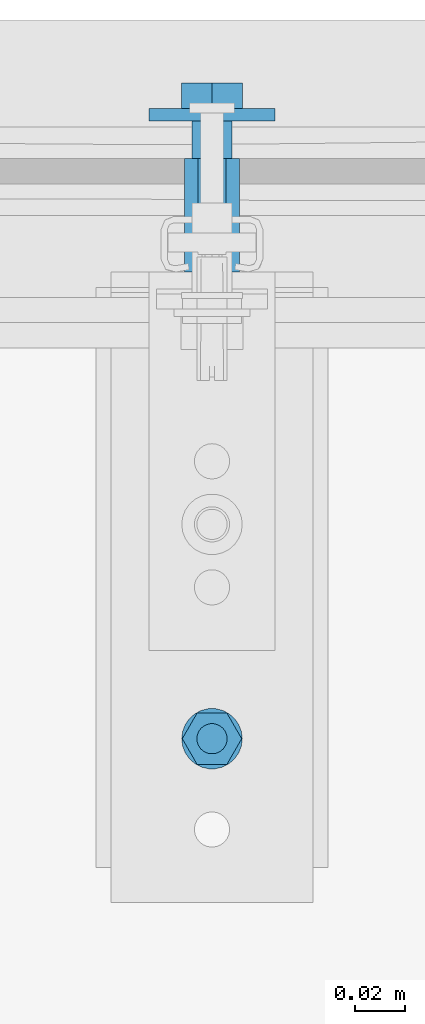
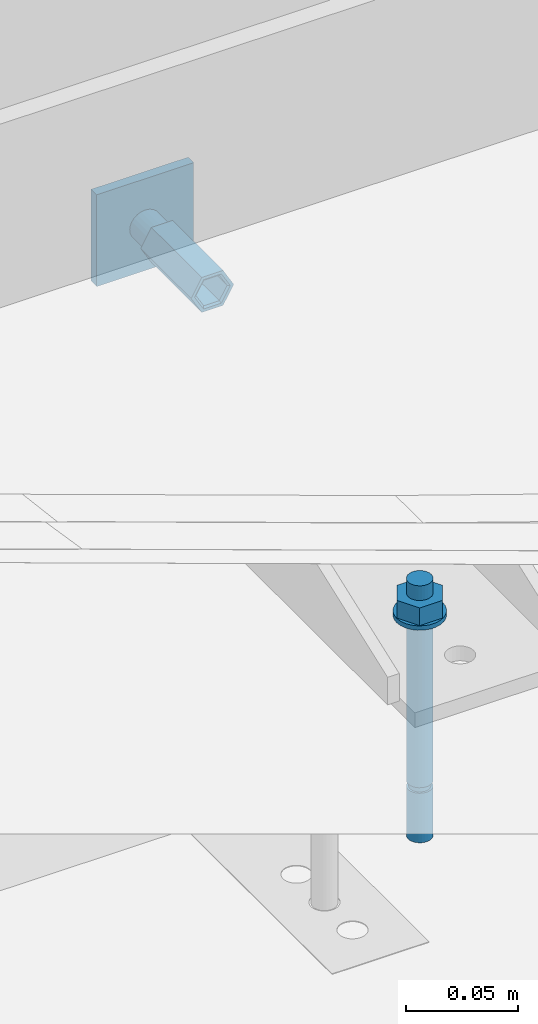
# One storey, part 4 of 17: 2 assemblies.
"""IFC2X3 building model written with IfcOpenShell, lengths in metres."""

import ifcopenshell
import ifcopenshell.guid

model = None  # the IFC model being written
_history = None  # IfcOwnerHistory: only IFC2X3 demands one
_inside = {}  # id of a spatial element -> (the spatial element, [elements in it])
_under = {}  # id of a project, library or spatial element -> (it, [spatial elements below it])
_declared = {}  # id of a project -> (the project, [libraries it declares])
_typed = {}  # id of a type object -> (the type object, [elements of that type])
_made_of = {}  # id of a material, layer set ... -> (it, [elements and type objects made of it])


def new_model(schema):
    """Start an empty IFC model of exactly this schema.

    Asked for "IFC4X3", IfcOpenShell would pick the latest addendum, in which some entities
    have other attributes; the version numbers below select the first issue.
    IFC2X3 requires an IfcOwnerHistory on every rooted entity: one is made here for all.
    """
    global model, _history
    if schema == "IFC4X3":
        model = ifcopenshell.file(schema_version=(4, 3, 0, 0))
    else:
        model = ifcopenshell.file(schema=schema)
    _inside.clear()
    _under.clear()
    _declared.clear()
    _typed.clear()
    _made_of.clear()
    _history = None
    if model.schema == "IFC2X3":
        org = make("IfcOrganization", Name="unknown")
        user = make(
            "IfcPersonAndOrganization",
            ThePerson=make("IfcPerson", FamilyName="unknown"),
            TheOrganization=org,
        )
        app = make(
            "IfcApplication",
            ApplicationDeveloper=org,
            Version="unknown",
            ApplicationFullName="unknown",
            ApplicationIdentifier="unknown",
        )
        _history = make(
            "IfcOwnerHistory",
            OwningUser=user,
            OwningApplication=app,
            ChangeAction="ADDED",
            CreationDate=0,
        )
    return model


def make(cls, **values):
    """One entity of the class cls with the attributes given. An attribute that is None is left unset."""
    return model.create_entity(
        cls, **{name: value for name, value in values.items() if value is not None}
    )


def entity(cls, *values):
    """Any entity or typed value of the class cls, its attributes in the order of the schema. None: left unset."""
    e = model.create_entity(cls)
    for i, value in enumerate(values):
        if value is not None:
            e[i] = value
    return e


def rooted(cls, **values):
    """An entity with a GlobalId (a new one), such as an element, a storey or a relation."""
    return make(cls, GlobalId=ifcopenshell.guid.new(), OwnerHistory=_history, **values)


def si_unit(unit_type, name, prefix=None):
    """IfcSIUnit, for example si_unit("LENGTHUNIT", "METRE", prefix="MILLI")."""
    return make("IfcSIUnit", UnitType=unit_type, Prefix=prefix, Name=name)


def converted_unit(unit_type, name, factor, base, dimensions=None, offset=None):
    """IfcConversionBasedUnit, such as the inch: factor (a typed value) times the base unit."""
    return make(
        "IfcConversionBasedUnit"
        if offset is None
        else "IfcConversionBasedUnitWithOffset",
        ConversionOffset=offset,
        Dimensions=None
        if dimensions is None
        else entity("IfcDimensionalExponents", *dimensions),
        UnitType=unit_type,
        Name=name,
        ConversionFactor=make(
            "IfcMeasureWithUnit", ValueComponent=factor, UnitComponent=base
        ),
    )


def derived_unit(unit_type, elements):
    """IfcDerivedUnit: a product of units, each with its exponent."""
    return make(
        "IfcDerivedUnit",
        Elements=[
            make("IfcDerivedUnitElement", Unit=unit, Exponent=power)
            for unit, power in elements
        ],
        UnitType=unit_type,
    )


def assignment(units):
    """IfcUnitAssignment: the units of a project."""
    return None if units is None else make("IfcUnitAssignment", Units=units)


def point(xyz):
    """IfcCartesianPoint."""
    return None if xyz is None else make("IfcCartesianPoint", Coordinates=xyz)


def direction(xyz):
    """IfcDirection."""
    return None if xyz is None else make("IfcDirection", DirectionRatios=xyz)


def frame(location, z_axis=None, x_axis=None):
    """IfcAxis2Placement3D, a coordinate frame: its origin and axes. An axis left out is left unset."""
    return make(
        "IfcAxis2Placement3D",
        Location=point(location),
        Axis=direction(z_axis),
        RefDirection=direction(x_axis),
    )


def frame_2d(location, x_axis=None):
    """IfcAxis2Placement2D, a coordinate frame in the plane: its origin and x axis."""
    return make(
        "IfcAxis2Placement2D", Location=point(location), RefDirection=direction(x_axis)
    )


def origin():
    """The frame at (0, 0, 0) with its axes left unset."""
    return frame((0.0, 0.0, 0.0))


def place(relative_to, where):
    """IfcLocalPlacement: puts the frame where relative to a parent placement (None: the world)."""
    return make(
        "IfcLocalPlacement", PlacementRelTo=relative_to, RelativePlacement=where
    )


def context(
    kind, dimensions, precision=None, world=None, true_north=None, identifier=None
):
    """IfcGeometricRepresentationContext, for example the 3D "Model" context."""
    return make(
        "IfcGeometricRepresentationContext",
        ContextIdentifier=identifier,
        ContextType=kind,
        CoordinateSpaceDimension=dimensions,
        Precision=precision,
        WorldCoordinateSystem=world,
        TrueNorth=true_north,
    )


def subcontext(parent, identifier, kind, view, scale=None):
    """IfcGeometricRepresentationSubContext, for example "Body" below "Model"."""
    return make(
        "IfcGeometricRepresentationSubContext",
        ContextIdentifier=identifier,
        ContextType=kind,
        ParentContext=parent,
        TargetScale=scale,
        TargetView=view,
    )


def project(units=None, contexts=None):
    """IfcProject with its units and contexts."""
    return rooted(
        "IfcProject",
        Name="project",
        RepresentationContexts=contexts,
        UnitsInContext=assignment(units),
    )


def spatial(cls, under=None, at=None, **own):
    """A site, building, storey or space (cls), placed at a placement, below another one or the project."""
    s = rooted(cls, ObjectPlacement=at, **own)
    if under is not None:
        _under.setdefault(under.id(), (under, []))[1].append(s)
    return s


def polyline(points):
    """IfcPolyline through the points."""
    return make("IfcPolyline", Points=[point(p) for p in points])


def circle_curve(where, radius):
    """IfcCircle in the frame where."""
    return make("IfcCircle", Position=where, Radius=radius)


def parameter(value):
    """IfcParameterValue: where a trimmed curve begins or ends, as a parameter of its basis curve."""
    return model.create_entity("IfcParameterValue", value)


def trimmed(basis, trim1, trim2, sense, master):
    """IfcTrimmedCurve: the piece of a basis curve between two trims."""
    return make(
        "IfcTrimmedCurve",
        BasisCurve=basis,
        Trim1=trim1,
        Trim2=trim2,
        SenseAgreement=sense,
        MasterRepresentation=master,
    )


def segment(curve, same_sense, transition):
    """IfcCompositeCurveSegment."""
    return make(
        "IfcCompositeCurveSegment",
        Transition=transition,
        SameSense=same_sense,
        ParentCurve=curve,
    )


def composite_curve(segments, self_intersect=None):
    """IfcCompositeCurve: segments joined end to end."""
    return make("IfcCompositeCurve", Segments=segments, SelfIntersect=self_intersect)


def profile(cls, at=None, kind="AREA", **sizes):
    """A parametric profile (cls). Its sizes go by their IFC names, for example OverallWidth=200.0."""
    return make(cls, ProfileType=kind, Position=at, **sizes)


def circle(**sizes):
    """IfcCircleProfileDef."""
    return profile("IfcCircleProfileDef", **sizes)


def hollow_circle(**sizes):
    """IfcCircleHollowProfileDef."""
    return profile("IfcCircleHollowProfileDef", **sizes)


def outline(outer, holes=None, kind="AREA"):
    """IfcArbitraryClosedProfileDef: a profile drawn as a closed curve; with holes, ...WithVoids."""
    if holes is None:
        return make("IfcArbitraryClosedProfileDef", ProfileType=kind, OuterCurve=outer)
    return make(
        "IfcArbitraryProfileDefWithVoids",
        ProfileType=kind,
        OuterCurve=outer,
        InnerCurves=holes,
    )


def extrude(swept, where, along, depth):
    """IfcExtrudedAreaSolid: the profile swept, set in the frame where, extruded along a direction by depth."""
    return make(
        "IfcExtrudedAreaSolid",
        SweptArea=swept,
        Position=where,
        ExtrudedDirection=direction(along),
        Depth=depth,
    )


def faces_of(points, faces, orient=None, outer=None):
    """IfcFace entities. A face is a list of loops; a loop is a list of indices into points, from 0.

    orient and outer hold one flag for each loop. By default every Orientation is true, the
    first loop of a face is its IfcFaceOuterBound and the others are IfcFaceBound.
    """
    made = []
    for i, loops in enumerate(faces):
        bounds = []
        for j, loop in enumerate(loops):
            is_outer = j == 0 if outer is None else outer[i][j]
            bounds.append(
                make(
                    "IfcFaceOuterBound" if is_outer else "IfcFaceBound",
                    Bound=make("IfcPolyLoop", Polygon=[points[k] for k in loop]),
                    Orientation=True if orient is None else orient[i][j],
                )
            )
        made.append(make("IfcFace", Bounds=bounds))
    return made


def faceted_brep(points, faces, orient=None, outer=None, voids=None):
    """IfcFacetedBrep: a solid bounded by flat faces; with voids (closed shells), ...WithVoids."""
    shared = [point(p) for p in points]
    hull = make("IfcClosedShell", CfsFaces=faces_of(shared, faces, orient, outer))
    if voids is None:
        return make("IfcFacetedBrep", Outer=hull)
    return make(
        "IfcFacetedBrepWithVoids",
        Outer=hull,
        Voids=[
            make(cls, CfsFaces=faces_of(shared, fs, o, b)) for cls, fs, o, b in voids
        ],
    )


def shape(context_of_items, identifier, shape_type, items):
    """IfcShapeRepresentation: the items that make up one representation, for example the "Body"."""
    return make(
        "IfcShapeRepresentation",
        ContextOfItems=context_of_items,
        RepresentationIdentifier=identifier,
        RepresentationType=shape_type,
        Items=items,
    )


def source(mapping_origin, context_of_items, identifier, shape_type, items):
    """IfcRepresentationMap: a shape defined once, which mapped items show again and again."""
    return make(
        "IfcRepresentationMap",
        MappingOrigin=mapping_origin,
        MappedRepresentation=shape(context_of_items, identifier, shape_type, items),
    )


def transform(
    local_origin,
    x_axis=None,
    y_axis=None,
    z_axis=None,
    scale=None,
    scale2=None,
    scale3=None,
    uniform=True,
):
    """IfcCartesianTransformationOperator3D, or its non-uniform kind. x_axis, y_axis, z_axis: its Axis1, 2, 3."""
    if uniform:
        return make(
            "IfcCartesianTransformationOperator3D",
            Axis1=direction(x_axis),
            Axis2=direction(y_axis),
            LocalOrigin=point(local_origin),
            Scale=scale,
            Axis3=direction(z_axis),
        )
    return make(
        "IfcCartesianTransformationOperator3DnonUniform",
        Axis1=direction(x_axis),
        Axis2=direction(y_axis),
        LocalOrigin=point(local_origin),
        Scale=scale,
        Axis3=direction(z_axis),
        Scale2=scale2,
        Scale3=scale3,
    )


def mapped(mapping_source, mapping_target):
    """IfcMappedItem: shows the shape of a source again, moved by a transform."""
    return make(
        "IfcMappedItem", MappingSource=mapping_source, MappingTarget=mapping_target
    )


def material(Name=None, Category=None):
    """IfcMaterial."""
    return make("IfcMaterial", Name=Name, Category=Category)


def made_of(thing, what):
    """Note that an element or type object is made of a material, layer set ...; save() writes the relation."""
    if what is not None:
        _made_of.setdefault(what.id(), (what, []))[1].append(thing)
    return thing


def type_object(cls, material=None, **own):
    """A type object (cls), such as IfcWallType, which elements share."""
    return made_of(rooted(cls, **own), material)


def type_shapes(of_type, sources):
    """Give a type object the sources (RepresentationMaps) that its elements show as mapped items."""
    of_type.RepresentationMaps = sources


def element(
    cls,
    number,
    at=None,
    inside=None,
    cuts=None,
    type_object=None,
    material=None,
    context=None,
    identifier="Body",
    shape_type=None,
    held_by="IfcProductDefinitionShape",
    body=None,
    shapes=None,
    **own,
):
    """One element of the class cls, such as IfcWall. Its Tag is "e" and its number.

    at: its placement. inside: the storey or other place that contains it. cuts: it is an
    opening in that element (IfcRelVoidsElement). A single representation is given by context,
    identifier, shape_type and body (its items); several are given by shapes. held_by: the class
    of the entity that holds the representations. save() writes the other relations.
    """
    e = rooted(cls, Tag="e%d" % number, ObjectPlacement=at, **own)
    if body is not None:
        shapes = [shape(context, identifier, shape_type, body)]
    if shapes is not None:
        e.Representation = make(held_by, Representations=shapes)
    if inside is not None:
        _inside.setdefault(inside.id(), (inside, []))[1].append(e)
    if cuts is not None:
        rooted(
            "IfcRelVoidsElement", RelatingBuildingElement=cuts, RelatedOpeningElement=e
        )
    if type_object is not None:
        _typed.setdefault(type_object.id(), (type_object, []))[1].append(e)
    return made_of(e, material)


def aggregate(whole, parts):
    """IfcRelAggregates: a whole, such as a stair, and the parts it consists of."""
    return rooted("IfcRelAggregates", RelatingObject=whole, RelatedObjects=parts)


def save(model, path):
    """Write the relations noted so far, then the file.

    IfcRelAggregates (storeys below a building ...), IfcRelContainedInSpatialStructure (elements
    in a storey), IfcRelDefinesByType, IfcRelAssociatesMaterial and IfcRelDeclares: one each for
    every whole, place, type object, material and project.
    """
    for whole, parts in _under.values():
        aggregate(whole, parts)
    for where, things in _inside.values():
        rooted(
            "IfcRelContainedInSpatialStructure",
            RelatedElements=things,
            RelatingStructure=where,
        )
    for kind, things in _typed.values():
        rooted("IfcRelDefinesByType", RelatedObjects=things, RelatingType=kind)
    for what, things in _made_of.values():
        rooted("IfcRelAssociatesMaterial", RelatedObjects=things, RelatingMaterial=what)
    for by, libraries in _declared.values():
        rooted("IfcRelDeclares", RelatingContext=by, RelatedDefinitions=libraries)
    model.write(path)


model = new_model("IFC2X3")

# Units and contexts
model_context = context("Model", 3, precision=1e-05, world=origin(), true_north=direction((6.123031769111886e-17, 1.0)))
plan_context = context("Plan", 3, precision=1e-05, world=origin(), true_north=direction((6.123031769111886e-17, 1.0)))
body_context = subcontext(model_context, "Body", "Model", "MODEL_VIEW")
ifc_project = project(units=[si_unit("LENGTHUNIT", "METRE"), si_unit("AREAUNIT", "SQUARE_METRE"), converted_unit("PLANEANGLEUNIT", "DEGREE", entity("IfcPlaneAngleMeasure", 0.017453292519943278), si_unit("PLANEANGLEUNIT", "RADIAN"), dimensions=[0, 0, 0, 0, 0, 0, 0]), si_unit("VOLUMEUNIT", "CUBIC_METRE"), derived_unit("THERMALTRANSMITTANCEUNIT", [(si_unit("MASSUNIT", "GRAM", prefix="KILO"), 1), (si_unit("THERMODYNAMICTEMPERATUREUNIT", "KELVIN"), -1), (si_unit("TIMEUNIT", "SECOND"), -3)]), derived_unit("USERDEFINED", [(si_unit("MASSUNIT", "GRAM", prefix="KILO"), 1), (si_unit("THERMODYNAMICTEMPERATUREUNIT", "KELVIN"), -1), (si_unit("TIMEUNIT", "SECOND"), -2)]), derived_unit("THERMALRESISTANCEUNIT", [(si_unit("MASSUNIT", "GRAM", prefix="KILO"), -1), (si_unit("TIMEUNIT", "SECOND"), 3), (si_unit("THERMODYNAMICTEMPERATUREUNIT", "KELVIN"), 1)]), si_unit("PRESSUREUNIT", "PASCAL"), derived_unit("MASSDENSITYUNIT", [(si_unit("MASSUNIT", "GRAM", prefix="KILO"), 1), (si_unit("LENGTHUNIT", "METRE"), -3)]), derived_unit("VAPORPERMEABILITYUNIT", [(si_unit("LENGTHUNIT", "METRE"), -1), (si_unit("TIMEUNIT", "SECOND"), 1)]), derived_unit("USERDEFINED", [(si_unit("MASSUNIT", "GRAM", prefix="KILO"), 1), (si_unit("TIMEUNIT", "SECOND"), -3), (si_unit("LENGTHUNIT", "METRE"), 3), (si_unit("ELECTRICCURRENTUNIT", "AMPERE"), -2)])], contexts=[model_context, plan_context])

# Site, building, storey
site_placement = place(None, origin())
site = spatial("IfcSite", under=ifc_project, at=site_placement, Name="Default", CompositionType="ELEMENT")
building_placement = place(site_placement, origin())
building = spatial("IfcBuilding", under=site, at=building_placement, CompositionType="ELEMENT")
storey_placement = place(building_placement, origin())
storey = spatial("IfcBuildingStorey", under=building, at=storey_placement, Name="L0", CompositionType="ELEMENT", Elevation=0.0)

# Assemblies
ifc_material = material(Name="REC_Acero, S 275JR (Zincado)")
type_product_1 = type_object("IfcTypeProduct", Name="REC-HBP M16-75 EV:HBP M16-75 EV", material=ifc_material)
shared_shape_1 = source(origin(), body_context, "Body", "Brep", [
    faceted_brep([(-0.010999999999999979, 0.0, 0.0), (-0.009199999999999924, 0.0, 0.0), (-0.005499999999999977, 0.009526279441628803, 0.0), (-0.005500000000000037, -0.009526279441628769, 0.0), (-0.004600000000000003, -0.007967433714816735, 0.0), (0.004599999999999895, -0.007967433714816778, 0.0), (0.005499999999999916, -0.009526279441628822, 0.0), (0.00919999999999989, 0.0, 0.0), (0.010999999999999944, 0.0, 0.0), (0.0054999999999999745, 0.009526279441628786, 0.0), (0.004599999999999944, 0.00796743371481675, 0.0), (-0.004599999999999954, 0.007967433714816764, 0.0), (0.0039999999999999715, 0.006928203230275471, -0.0008571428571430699), (0.007999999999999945, 0.0, -0.0008571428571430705), (-0.003999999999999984, 0.006928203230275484, -0.0008571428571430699), (-0.007999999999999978, 0.0, -0.0008571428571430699), (-0.004000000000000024, -0.006928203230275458, -0.0008571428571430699), (0.003999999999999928, -0.0069282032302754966, -0.0008571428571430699), (0.003999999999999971, 0.0069282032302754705, -0.04500000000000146), (0.007999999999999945, 0.0, -0.04500000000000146), (-0.003999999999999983, 0.006928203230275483, -0.04500000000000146), (-0.007999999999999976, 0.0, -0.04500000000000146), (-0.004000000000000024, -0.006928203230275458, -0.04500000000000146), (0.003999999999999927, -0.006928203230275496, -0.04500000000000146), (-0.005499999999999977, 0.009526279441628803, -0.04500000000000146), (-0.010999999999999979, 0.0, -0.04500000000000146), (0.0054999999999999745, 0.009526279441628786, -0.04500000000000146), (0.010999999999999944, 0.0, -0.04500000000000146), (0.005499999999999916, -0.009526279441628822, -0.04500000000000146), (-0.005500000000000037, -0.009526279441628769, -0.04500000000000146)], [[[0, 1, 2]], [[1, 0, 3]], [[3, 4, 1]], [[4, 3, 5]], [[6, 5, 3]], [[5, 6, 7]], [[8, 7, 6]], [[7, 8, 9]], [[10, 9, 2]], [[9, 10, 7]], [[11, 2, 1]], [[2, 11, 10]], [[7, 10, 12, 13]], [[10, 11, 14, 12]], [[11, 1, 15, 14]], [[1, 4, 16, 15]], [[4, 5, 17, 16]], [[5, 7, 13, 17]], [[13, 12, 18, 19]], [[12, 14, 20, 18]], [[14, 15, 21, 20]], [[15, 16, 22, 21]], [[16, 17, 23, 22]], [[17, 13, 19, 23]], [[24, 21, 25]], [[21, 24, 20]], [[18, 20, 24]], [[24, 26, 18]], [[19, 18, 26]], [[26, 27, 19]], [[28, 19, 27]], [[19, 28, 23]], [[29, 23, 28]], [[21, 22, 29]], [[23, 29, 22]], [[29, 25, 21]], [[27, 26, 9, 8]], [[26, 24, 2, 9]], [[24, 25, 0, 2]], [[25, 29, 3, 0]], [[29, 28, 6, 3]], [[28, 27, 8, 6]]]),
    faceted_brep([(0.007999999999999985, 0.0, -0.022500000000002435), (0.0077274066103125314, 0.002070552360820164, -0.022500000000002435), (0.006928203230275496, 0.003999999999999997, -0.022500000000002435), (0.005656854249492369, 0.005656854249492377, -0.022500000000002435), (0.0039999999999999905, 0.006928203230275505, -0.022500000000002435), (0.00207055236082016, 0.007727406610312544, -0.022500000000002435), (0.0, 0.008, -0.022500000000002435), (-0.0020705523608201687, 0.0077274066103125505, -0.022500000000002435), (-0.0040000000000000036, 0.006928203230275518, -0.022500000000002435), (-0.005656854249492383, 0.005656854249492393, -0.022500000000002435), (-0.006928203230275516, 0.004000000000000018, -0.022500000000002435), (-0.007727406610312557, 0.0020705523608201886, -0.022500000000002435), (-0.008000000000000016, 0.0, -0.022500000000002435), (-0.007727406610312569, -0.002070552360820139, -0.022500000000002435), (-0.006928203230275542, -0.003999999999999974, -0.022500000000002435), (-0.0056568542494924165, -0.005656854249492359, -0.022500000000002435), (-0.0040000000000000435, -0.006928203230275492, -0.022500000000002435), (-0.002070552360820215, -0.0077274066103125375, -0.022500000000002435), (0.0, -0.008, -0.022500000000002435), (0.0020705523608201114, -0.007727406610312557, -0.022500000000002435), (0.003999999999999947, -0.00692820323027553, -0.022500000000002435), (0.005656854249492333, -0.005656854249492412, -0.022500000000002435), (0.0069282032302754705, -0.004000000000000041, -0.022500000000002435), (0.007727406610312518, -0.002070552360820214, -0.022500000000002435), (0.0, 0.008, -0.060000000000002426), (0.00207055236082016, 0.007727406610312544, -0.060000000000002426), (0.0039999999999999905, 0.006928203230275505, -0.060000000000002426), (0.005656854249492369, 0.005656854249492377, -0.060000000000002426), (0.006928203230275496, 0.003999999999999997, -0.060000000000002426), (0.0077274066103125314, 0.002070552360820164, -0.060000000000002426), (0.007999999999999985, 0.0, -0.060000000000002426), (0.007727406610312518, -0.002070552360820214, -0.060000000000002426), (0.0069282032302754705, -0.004000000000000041, -0.060000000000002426), (0.005656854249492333, -0.005656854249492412, -0.060000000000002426), (0.003999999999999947, -0.00692820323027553, -0.060000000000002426), (0.0020705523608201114, -0.007727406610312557, -0.060000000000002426), (0.0, -0.008, -0.060000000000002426), (-0.002070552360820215, -0.0077274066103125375, -0.060000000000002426), (-0.0040000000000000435, -0.006928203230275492, -0.060000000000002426), (-0.0056568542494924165, -0.005656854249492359, -0.060000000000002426), (-0.006928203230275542, -0.003999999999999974, -0.060000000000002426), (-0.007727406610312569, -0.002070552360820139, -0.060000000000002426), (-0.008000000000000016, 0.0, -0.060000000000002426), (-0.007727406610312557, 0.0020705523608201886, -0.060000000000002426), (-0.006928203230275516, 0.004000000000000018, -0.060000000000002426), (-0.005656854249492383, 0.005656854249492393, -0.060000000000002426), (-0.0040000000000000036, 0.006928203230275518, -0.060000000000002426), (-0.0020705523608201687, 0.0077274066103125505, -0.060000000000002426)], [[[0, 1, 2, 3, 4, 5, 6, 7, 8, 9, 10, 11, 12, 13, 14, 15, 16, 17, 18, 19, 20, 21, 22, 23]], [[24, 25, 26, 27, 28, 29, 30, 31, 32, 33, 34, 35, 36, 37, 38, 39, 40, 41, 42, 43, 44, 45, 46, 47]], [[41, 13, 12, 42]], [[40, 14, 13, 41]], [[16, 15, 39, 38]], [[40, 39, 15, 14]], [[17, 16, 38, 37]], [[18, 17, 37, 36]], [[35, 19, 18, 36]], [[34, 20, 19, 35]], [[22, 21, 33, 32]], [[34, 33, 21, 20]], [[23, 22, 32, 31]], [[0, 23, 31, 30]], [[29, 1, 0, 30]], [[28, 2, 1, 29]], [[4, 3, 27, 26]], [[28, 27, 3, 2]], [[5, 4, 26, 25]], [[6, 5, 25, 24]], [[47, 7, 6, 24]], [[46, 8, 7, 47]], [[10, 9, 45, 44]], [[46, 45, 9, 8]], [[11, 10, 44, 43]], [[12, 11, 43, 42]]]),
    faceted_brep([(0.02499999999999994, 0.025000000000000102, -0.060000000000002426), (-0.024999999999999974, 0.025000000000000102, -0.060000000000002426), (-0.024999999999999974, -0.025000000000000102, -0.060000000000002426), (0.02499999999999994, -0.025000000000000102, -0.060000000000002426), (0.02499999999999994, 0.025000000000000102, -0.06500000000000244), (0.02499999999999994, -0.025000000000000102, -0.06500000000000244), (-0.024999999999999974, -0.025000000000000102, -0.06500000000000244), (-0.024999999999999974, 0.025000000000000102, -0.06500000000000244)], [[[0, 1, 2, 3]], [[4, 5, 6, 7]], [[1, 0, 4, 7]], [[2, 1, 7, 6]], [[3, 2, 6, 5]], [[0, 3, 5, 4]]]),
    faceted_brep([(-0.011999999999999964, 0.00692820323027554, -0.06500000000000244), (-0.011999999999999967, -0.006928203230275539, -0.06500000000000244), (0.0, -0.013856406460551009, -0.06500000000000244), (0.011999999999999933, -0.00692820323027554, -0.06500000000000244), (0.011999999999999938, 0.00692820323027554, -0.06500000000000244), (0.0, 0.01385640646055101, -0.06500000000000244), (-0.011999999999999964, 0.00692820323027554, -0.07500000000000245), (0.0, 0.01385640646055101, -0.07500000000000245), (0.011999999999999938, 0.00692820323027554, -0.07500000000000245), (0.011999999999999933, -0.00692820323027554, -0.07500000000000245), (0.0, -0.013856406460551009, -0.07500000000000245), (-0.011999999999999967, -0.00692820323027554, -0.07500000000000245)], [[[0, 1, 2, 3, 4, 5]], [[6, 7, 8, 9, 10, 11]], [[1, 0, 6, 11]], [[2, 1, 11, 10]], [[3, 2, 10, 9]], [[4, 3, 9, 8]], [[5, 4, 8, 7]], [[0, 5, 7, 6]]]),
])
type_shapes(type_product_1, [shared_shape_1])
assembly_1_placement = place(storey_placement, frame((7.407720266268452, 17.014530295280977, 0.07200000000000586), z_axis=(0.0, -1.0, 0.0), x_axis=(1.0, 0.0, 0.0)))
element("IfcElementAssembly", 1, at=assembly_1_placement, inside=storey, type_object=type_product_1, material=ifc_material, Name="REC-HBP M16-75 EV:HBP M16-75 EV", ObjectType="REC-HBP M16-75 EV:HBP M16-75 EV", AssemblyPlace="NOTDEFINED", PredefinedType="NOTDEFINED", context=body_context, shape_type="MappedRepresentation", body=[
    mapped(shared_shape_1, transform((0.0, 0.0, 0.0), scale=1.0)),
])
type_product_2 = type_object("IfcTypeProduct", Name="REC-AEM12-140:AEM12-140", material=ifc_material)
shared_shape_2 = source(origin(), body_context, "Body", "SweptSolid", [
    extrude(outline(polyline([(-0.005890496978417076, -0.010202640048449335), (0.005890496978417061, -0.010202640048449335), (0.01178099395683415, 0.0), (0.005890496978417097, 0.010202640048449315), (-0.0058904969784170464, 0.010202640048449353), (-0.011780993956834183, 0.0), (-0.005890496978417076, -0.010202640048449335)]), holes=[composite_curve([segment(trimmed(circle_curve(frame_2d((6.043164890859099e-09, 0.0), x_axis=(1.0, 0.0)), 0.005999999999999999), [parameter(3.053332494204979e-13)], [parameter(180.0)], True, "PARAMETER"), False, "CONTINUOUS"), segment(trimmed(circle_curve(frame_2d((6.043164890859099e-09, 0.0), x_axis=(1.0, 0.0)), 0.005999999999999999), [parameter(179.99999999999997)], [parameter(0.0)], True, "PARAMETER"), False, "CONTINUOUS")], self_intersect=False)]), frame((-6.043164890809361e-09, 0.0, 0.002399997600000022)), (0.0, 0.0, 1.0), 0.009600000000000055),
    extrude(hollow_circle(Radius=0.011999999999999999, WallThickness=0.004999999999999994, at=frame_2d((1.062573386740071e-19, -1.9386534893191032e-17), x_axis=(1.0, 0.0))), origin(), (0.0, 0.0, 1.0), 0.002399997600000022),
    extrude(circle(Radius=0.006, at=frame_2d((1.3218592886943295e-19, -9.69326744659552e-18), x_axis=(1.0, 0.0))), frame((0.0, 0.0, -0.09)), (0.0, 0.0, 1.0), 0.11),
    extrude(circle(Radius=0.006, at=frame_2d((1.3218592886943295e-19, -9.69326744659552e-18), x_axis=(1.0, 0.0))), frame((0.0, 0.0, -0.12)), (0.0, 0.0, 1.0), 0.026999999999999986),
    extrude(circle(Radius=0.005, at=frame_2d((1.3218592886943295e-19, -8.077722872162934e-18), x_axis=(1.0, 0.0))), frame((0.0, 0.0, -0.09300000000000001)), (0.0, 0.0, 1.0), 0.0030000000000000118),
])
type_shapes(type_product_2, [shared_shape_2])
assembly_2_placement = place(storey_placement, frame((7.407720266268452, 16.829530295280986, 0.007999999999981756)))
element("IfcElementAssembly", 2, at=assembly_2_placement, inside=storey, type_object=type_product_2, material=ifc_material, Name="REC-AEM12-140:AEM12-140", ObjectType="REC-AEM12-140:AEM12-140", AssemblyPlace="NOTDEFINED", PredefinedType="NOTDEFINED", context=body_context, shape_type="MappedRepresentation", body=[
    mapped(shared_shape_2, transform((0.0, 0.0, 0.0), scale=1.0)),
])

save(model, "model.ifc")
